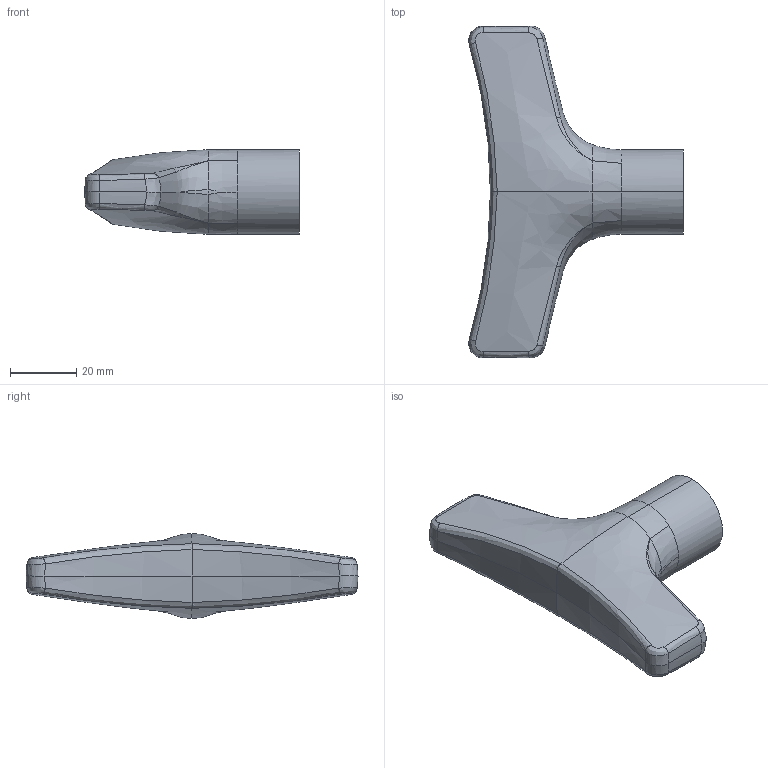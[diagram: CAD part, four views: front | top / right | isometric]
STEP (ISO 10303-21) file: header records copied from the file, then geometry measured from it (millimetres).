
FILE_DESCRIPTION (( 'STEP AP214' ), '1' );
FILE_NAME ('5063-100-B12-PL.step', '2022-07-29T06:31:17', ( '' ), ( '' ), 'SwSTEP 2.0', 'SolidWorks 2022', '' );
FILE_SCHEMA (( 'AUTOMOTIVE_DESIGN' ));
Length unit declared in the file: millimetre
Products named in the file (1): 5063-100-B12-PL
Bounding box: 64.66 x 100 x 25.5 mm (x, y, z)
Volume: 53725.7 mm3; surface area: 11514.3 mm2
Topology: 1 solids, 1 shells, 70 faces, 176 edges, 104 vertices
Faces by surface type: bspline 60, cylinder 6, cone 2, plane 2
Entity records: 11559 total; most frequent: CARTESIAN_POINT 10342, ORIENTED_EDGE 340, EDGE_CURVE 170, B_SPLINE_CURVE_WITH_KNOTS 126, VERTEX_POINT 104, DIRECTION 96, EDGE_LOOP 72, FACE_OUTER_BOUND 70
